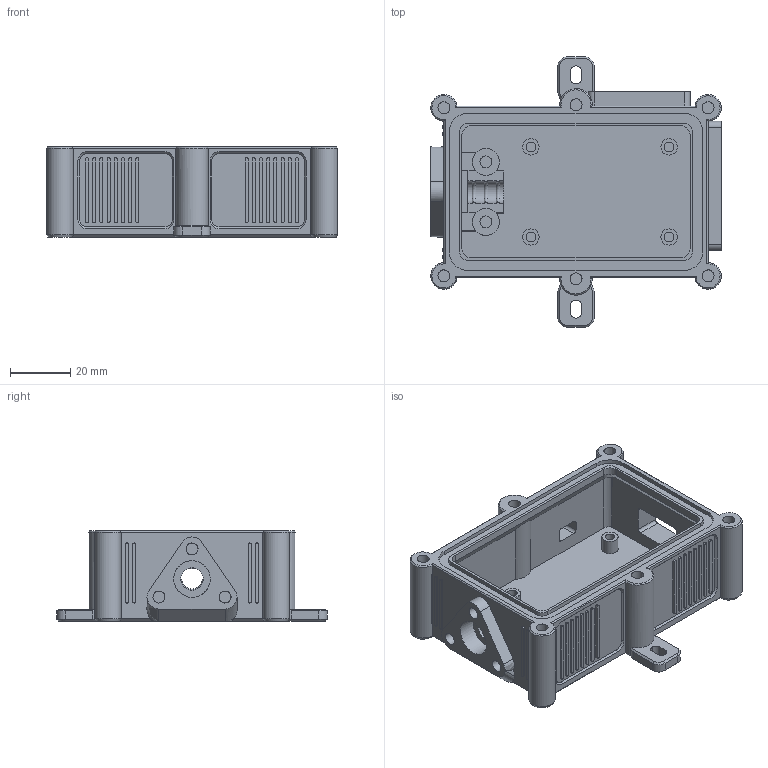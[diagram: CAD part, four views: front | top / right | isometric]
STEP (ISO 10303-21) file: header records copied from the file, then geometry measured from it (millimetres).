
FILE_DESCRIPTION(('FreeCAD Model'),'2;1');
FILE_NAME('Open CASCADE Shape Model','2026-09-29T21:45:30',('Author'),( ''),'Open CASCADE STEP processor 7.8','FreeCAD','Unknown');
FILE_SCHEMA(('AUTOMOTIVE_DESIGN { 1 0 10303 214 1 1 1 1 }'));
Length unit declared in the file: millimetre
Products named in the file (1): base
Bounding box: 96.8 x 90 x 30 mm (x, y, z)
Volume: 61796.3 mm3; surface area: 35365.8 mm2
Topology: 1 solids, 1 shells, 605 faces, 1577 edges, 1032 vertices
Faces by surface type: plane 303, cylinder 207, cone 60, bspline 32, torus 3
Full cylindrical faces by diameter (mm): 3.2 x4, 4 x15, 5.4 x4, 7.6 x1, 9 x2, 12.2 x1
Entity records: 20122 total; most frequent: CARTESIAN_POINT 5276, ORIENTED_EDGE 3154, DIRECTION 3029, EDGE_CURVE 1577, AXIS2_PLACEMENT_3D 1104, VERTEX_POINT 1032, LINE 821, VECTOR 821
